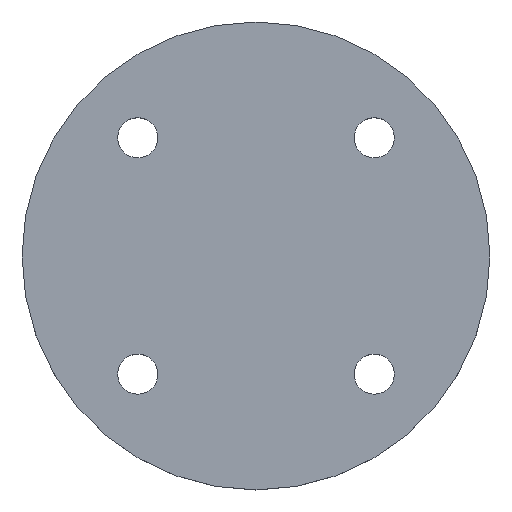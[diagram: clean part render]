
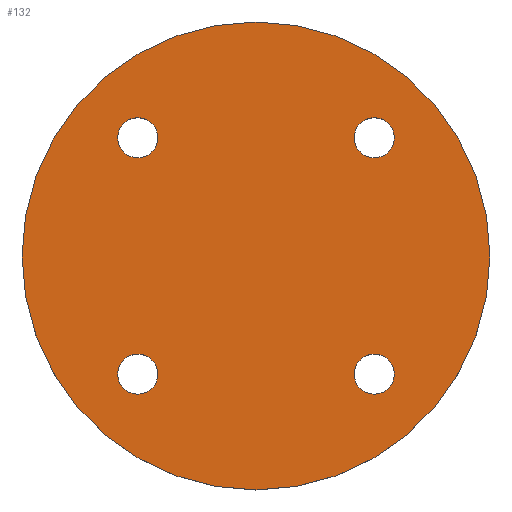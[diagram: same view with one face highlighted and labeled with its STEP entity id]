
A CAD part, top view. The second image highlights one B-rep face of the part: STEP entity #132.
In plain terms, the highlighted planar face has unit normal (0, 0, 1).
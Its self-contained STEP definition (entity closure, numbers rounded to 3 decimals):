
#15=FACE_BOUND('',#38,.T.);
#16=FACE_BOUND('',#39,.T.);
#17=FACE_BOUND('',#40,.T.);
#18=FACE_BOUND('',#41,.T.);
#23=PLANE('',#169);
#30=FACE_OUTER_BOUND('',#37,.T.);
#37=EDGE_LOOP('',(#112));
#38=EDGE_LOOP('',(#113));
#39=EDGE_LOOP('',(#114));
#40=EDGE_LOOP('',(#115));
#41=EDGE_LOOP('',(#116));
#57=CIRCLE('',#155,1.5);
#59=CIRCLE('',#158,1.5);
#61=CIRCLE('',#161,1.5);
#63=CIRCLE('',#164,1.5);
#65=CIRCLE('',#167,17.5);
#67=VERTEX_POINT('',#214);
#69=VERTEX_POINT('',#220);
#71=VERTEX_POINT('',#226);
#73=VERTEX_POINT('',#232);
#75=VERTEX_POINT('',#238);
#77=EDGE_CURVE('',#67,#67,#57,.T.);
#80=EDGE_CURVE('',#69,#69,#59,.T.);
#83=EDGE_CURVE('',#71,#71,#61,.T.);
#86=EDGE_CURVE('',#73,#73,#63,.T.);
#89=EDGE_CURVE('',#75,#75,#65,.T.);
#112=ORIENTED_EDGE('',*,*,#89,.T.);
#113=ORIENTED_EDGE('',*,*,#86,.T.);
#114=ORIENTED_EDGE('',*,*,#83,.T.);
#115=ORIENTED_EDGE('',*,*,#80,.T.);
#116=ORIENTED_EDGE('',*,*,#77,.T.);
#132=ADVANCED_FACE('',(#30,#15,#16,#17,#18),#23,.T.);
#155=AXIS2_PLACEMENT_3D('',#215,#175,#176);
#158=AXIS2_PLACEMENT_3D('',#221,#182,#183);
#161=AXIS2_PLACEMENT_3D('',#227,#189,#190);
#164=AXIS2_PLACEMENT_3D('',#233,#196,#197);
#167=AXIS2_PLACEMENT_3D('',#239,#203,#204);
#169=AXIS2_PLACEMENT_3D('',#243,#208,#209);
#175=DIRECTION('center_axis',(0.,0.,-1.));
#176=DIRECTION('ref_axis',(-1.,0.,0.));
#182=DIRECTION('center_axis',(0.,0.,-1.));
#183=DIRECTION('ref_axis',(-1.,0.,0.));
#189=DIRECTION('center_axis',(0.,0.,-1.));
#190=DIRECTION('ref_axis',(-1.,0.,0.));
#196=DIRECTION('center_axis',(0.,0.,-1.));
#197=DIRECTION('ref_axis',(-1.,0.,0.));
#203=DIRECTION('center_axis',(0.,0.,1.));
#204=DIRECTION('ref_axis',(1.,0.,0.));
#208=DIRECTION('center_axis',(0.,0.,1.));
#209=DIRECTION('ref_axis',(1.,0.,0.));
#214=CARTESIAN_POINT('',(-7.339,8.839,2.5));
#215=CARTESIAN_POINT('Origin',(-8.839,8.839,2.5));
#220=CARTESIAN_POINT('',(-7.339,-8.839,2.5));
#221=CARTESIAN_POINT('Origin',(-8.839,-8.839,2.5));
#226=CARTESIAN_POINT('',(10.339,-8.839,2.5));
#227=CARTESIAN_POINT('Origin',(8.839,-8.839,2.5));
#232=CARTESIAN_POINT('',(10.339,8.839,2.5));
#233=CARTESIAN_POINT('Origin',(8.839,8.839,2.5));
#238=CARTESIAN_POINT('',(-17.5,0.,2.5));
#239=CARTESIAN_POINT('Origin',(0.,0.,2.5));
#243=CARTESIAN_POINT('Origin',(0.,0.,2.5));
